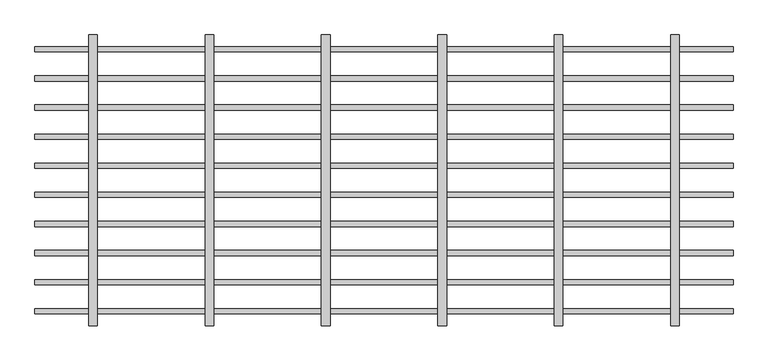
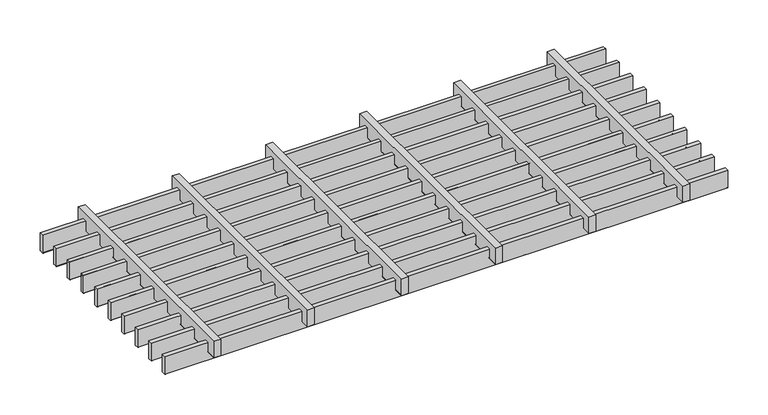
"""IFC4 building model written with IfcOpenShell, lengths in millimetres: proxy geometry, durlum_STARLAM_panel : durlum_STARLAM_9_width_cut."""

from ifc_helpers import new_model, si_unit, point, frame, frame_2d, origin, place, context, project, spatial, polyline, circle_curve, trimmed, segment, composite_curve, outline, extrude, source, transform, mapped, element, save


def generic_models_bbbf1810(model_context):
    return source(origin(), model_context, "Body", "SweptSolid", [
        extrude(outline(composite_curve([segment(polyline([(-179.5, 40.0), (-170.5, 40.0), (-170.5, 0.5)]), True, "CONTINUOUS"), segment(trimmed(circle_curve(frame_2d((-171.0, 0.5)), 0.5), [point((-170.5, 0.5))], [point((-171.0, 0.0))], False, "CARTESIAN"), True, "CONTINUOUS"), segment(polyline([(-171.0, 0.0), (-179.0, 0.0)]), True, "CONTINUOUS"), segment(trimmed(circle_curve(frame_2d((-179.0, 0.5)), 0.5), [point((-179.0, 0.0))], [point((-179.5, 0.5))], False, "CARTESIAN"), True, "CONTINUOUS"), segment(polyline([(-179.5, 0.5), (-179.5, 40.0)]), True, "CONTINUOUS")], self_intersect=False)), frame((-599.75, 0.0, 0.0), z_axis=(1.0, 0.0, 0.0), x_axis=(0.0, 1.0, 0.0)), (0.0, 0.0, 1.0), 1199.5),
        extrude(outline(composite_curve([segment(polyline([(-129.5, 40.0), (-120.5, 40.0), (-120.5, 0.5)]), True, "CONTINUOUS"), segment(trimmed(circle_curve(frame_2d((-121.0, 0.5)), 0.5), [point((-120.5, 0.5))], [point((-121.0, 0.0))], False, "CARTESIAN"), True, "CONTINUOUS"), segment(polyline([(-121.0, 0.0), (-129.0, 0.0)]), True, "CONTINUOUS"), segment(trimmed(circle_curve(frame_2d((-129.0, 0.5)), 0.5), [point((-129.0, 0.0))], [point((-129.5, 0.5))], False, "CARTESIAN"), True, "CONTINUOUS"), segment(polyline([(-129.5, 0.5), (-129.5, 40.0)]), True, "CONTINUOUS")], self_intersect=False)), frame((-599.75, 0.0, 0.0), z_axis=(1.0, 0.0, 0.0), x_axis=(0.0, 1.0, 0.0)), (0.0, 0.0, 1.0), 1199.5),
        extrude(outline(composite_curve([segment(polyline([(54.0, 307.5), (54.0, 292.5), (17.5, 292.5)]), True, "CONTINUOUS"), segment(trimmed(circle_curve(frame_2d((17.5, 293.0)), 0.5), [point((17.5, 292.5))], [point((17.0, 293.0))], False, "CARTESIAN"), True, "CONTINUOUS"), segment(polyline([(17.0, 293.0), (17.0, 307.0)]), True, "CONTINUOUS"), segment(trimmed(circle_curve(frame_2d((17.5, 307.0)), 0.5), [point((17.0, 307.0))], [point((17.5, 307.5))], False, "CARTESIAN"), True, "CONTINUOUS"), segment(polyline([(17.5, 307.5), (54.0, 307.5)]), True, "CONTINUOUS")], self_intersect=False)), frame((0.0, -249.75, 0.0), z_axis=(0.0, 1.0, 0.0), x_axis=(0.0, 0.0, 1.0)), (0.0, 0.0, 1.0), 499.5),
        extrude(outline(composite_curve([segment(polyline([(54.0, 107.5), (54.0, 92.5), (17.5, 92.5)]), True, "CONTINUOUS"), segment(trimmed(circle_curve(frame_2d((17.5, 93.0)), 0.5), [point((17.5, 92.5))], [point((17.0, 93.0))], False, "CARTESIAN"), True, "CONTINUOUS"), segment(polyline([(17.0, 93.0), (17.0, 107.0)]), True, "CONTINUOUS"), segment(trimmed(circle_curve(frame_2d((17.5, 107.0)), 0.5), [point((17.0, 107.0))], [point((17.5, 107.5))], False, "CARTESIAN"), True, "CONTINUOUS"), segment(polyline([(17.5, 107.5), (54.0, 107.5)]), True, "CONTINUOUS")], self_intersect=False)), frame((0.0, -249.75, 0.0), z_axis=(0.0, 1.0, 0.0), x_axis=(0.0, 0.0, 1.0)), (0.0, 0.0, 1.0), 499.5),
        extrude(outline(composite_curve([segment(polyline([(54.0, -92.5), (54.0, -107.5), (17.5, -107.5)]), True, "CONTINUOUS"), segment(trimmed(circle_curve(frame_2d((17.5, -107.0)), 0.5), [point((17.5, -107.5))], [point((17.0, -107.0))], False, "CARTESIAN"), True, "CONTINUOUS"), segment(polyline([(17.0, -107.0), (17.0, -93.0)]), True, "CONTINUOUS"), segment(trimmed(circle_curve(frame_2d((17.5, -93.0)), 0.5), [point((17.0, -93.0))], [point((17.5, -92.5))], False, "CARTESIAN"), True, "CONTINUOUS"), segment(polyline([(17.5, -92.5), (54.0, -92.5)]), True, "CONTINUOUS")], self_intersect=False)), frame((0.0, -249.75, 0.0), z_axis=(0.0, 1.0, 0.0), x_axis=(0.0, 0.0, 1.0)), (0.0, 0.0, 1.0), 499.5),
        extrude(outline(composite_curve([segment(polyline([(54.0, -292.5), (54.0, -307.5), (17.5, -307.5)]), True, "CONTINUOUS"), segment(trimmed(circle_curve(frame_2d((17.5, -307.0)), 0.5), [point((17.5, -307.5))], [point((17.0, -307.0))], False, "CARTESIAN"), True, "CONTINUOUS"), segment(polyline([(17.0, -307.0), (17.0, -293.0)]), True, "CONTINUOUS"), segment(trimmed(circle_curve(frame_2d((17.5, -293.0)), 0.5), [point((17.0, -293.0))], [point((17.5, -292.5))], False, "CARTESIAN"), True, "CONTINUOUS"), segment(polyline([(17.5, -292.5), (54.0, -292.5)]), True, "CONTINUOUS")], self_intersect=False)), frame((0.0, -249.75, 0.0), z_axis=(0.0, 1.0, 0.0), x_axis=(0.0, 0.0, 1.0)), (0.0, 0.0, 1.0), 499.5),
        extrude(outline(composite_curve([segment(polyline([(-79.5, 40.0), (-70.5, 40.0), (-70.5, 0.5)]), True, "CONTINUOUS"), segment(trimmed(circle_curve(frame_2d((-71.0, 0.5)), 0.5), [point((-70.5, 0.5))], [point((-71.0, 0.0))], False, "CARTESIAN"), True, "CONTINUOUS"), segment(polyline([(-71.0, 0.0), (-79.0, 0.0)]), True, "CONTINUOUS"), segment(trimmed(circle_curve(frame_2d((-79.0, 0.5)), 0.5), [point((-79.0, 0.0))], [point((-79.5, 0.5))], False, "CARTESIAN"), True, "CONTINUOUS"), segment(polyline([(-79.5, 0.5), (-79.5, 40.0)]), True, "CONTINUOUS")], self_intersect=False)), frame((-599.75, 0.0, 0.0), z_axis=(1.0, 0.0, 0.0), x_axis=(0.0, 1.0, 0.0)), (0.0, 0.0, 1.0), 1199.5),
        extrude(outline(composite_curve([segment(polyline([(-29.5, 40.0), (-20.5, 40.0), (-20.5, 0.5)]), True, "CONTINUOUS"), segment(trimmed(circle_curve(frame_2d((-21.0, 0.5)), 0.5), [point((-20.5, 0.5))], [point((-21.0, 0.0))], False, "CARTESIAN"), True, "CONTINUOUS"), segment(polyline([(-21.0, 0.0), (-29.0, 0.0)]), True, "CONTINUOUS"), segment(trimmed(circle_curve(frame_2d((-29.0, 0.5)), 0.5), [point((-29.0, 0.0))], [point((-29.5, 0.5))], False, "CARTESIAN"), True, "CONTINUOUS"), segment(polyline([(-29.5, 0.5), (-29.5, 40.0)]), True, "CONTINUOUS")], self_intersect=False)), frame((-599.75, 0.0, 0.0), z_axis=(1.0, 0.0, 0.0), x_axis=(0.0, 1.0, 0.0)), (0.0, 0.0, 1.0), 1199.5),
        extrude(outline(composite_curve([segment(polyline([(20.5, 40.0), (29.5, 40.0), (29.5, 0.5)]), True, "CONTINUOUS"), segment(trimmed(circle_curve(frame_2d((29.0, 0.5)), 0.5), [point((29.5, 0.5))], [point((29.0, 0.0))], False, "CARTESIAN"), True, "CONTINUOUS"), segment(polyline([(29.0, 0.0), (21.0, 0.0)]), True, "CONTINUOUS"), segment(trimmed(circle_curve(frame_2d((21.0, 0.5)), 0.5), [point((21.0, 0.0))], [point((20.5, 0.5))], False, "CARTESIAN"), True, "CONTINUOUS"), segment(polyline([(20.5, 0.5), (20.5, 40.0)]), True, "CONTINUOUS")], self_intersect=False)), frame((-599.75, 0.0, 0.0), z_axis=(1.0, 0.0, 0.0), x_axis=(0.0, 1.0, 0.0)), (0.0, 0.0, 1.0), 1199.5),
        extrude(outline(composite_curve([segment(polyline([(70.5, 40.0), (79.5, 40.0), (79.5, 0.5)]), True, "CONTINUOUS"), segment(trimmed(circle_curve(frame_2d((79.0, 0.5)), 0.5), [point((79.5, 0.5))], [point((79.0, 0.0))], False, "CARTESIAN"), True, "CONTINUOUS"), segment(polyline([(79.0, 0.0), (71.0, 0.0)]), True, "CONTINUOUS"), segment(trimmed(circle_curve(frame_2d((71.0, 0.5)), 0.5), [point((71.0, 0.0))], [point((70.5, 0.5))], False, "CARTESIAN"), True, "CONTINUOUS"), segment(polyline([(70.5, 0.5), (70.5, 40.0)]), True, "CONTINUOUS")], self_intersect=False)), frame((-599.75, 0.0, 0.0), z_axis=(1.0, 0.0, 0.0), x_axis=(0.0, 1.0, 0.0)), (0.0, 0.0, 1.0), 1199.5),
        extrude(outline(composite_curve([segment(polyline([(120.5, 40.0), (129.5, 40.0), (129.5, 0.5)]), True, "CONTINUOUS"), segment(trimmed(circle_curve(frame_2d((129.0, 0.5)), 0.5), [point((129.5, 0.5))], [point((129.0, 0.0))], False, "CARTESIAN"), True, "CONTINUOUS"), segment(polyline([(129.0, 0.0), (121.0, 0.0)]), True, "CONTINUOUS"), segment(trimmed(circle_curve(frame_2d((121.0, 0.5)), 0.5), [point((121.0, 0.0))], [point((120.5, 0.5))], False, "CARTESIAN"), True, "CONTINUOUS"), segment(polyline([(120.5, 0.5), (120.5, 40.0)]), True, "CONTINUOUS")], self_intersect=False)), frame((-599.75, 0.0, 0.0), z_axis=(1.0, 0.0, 0.0), x_axis=(0.0, 1.0, 0.0)), (0.0, 0.0, 1.0), 1199.5),
        extrude(outline(composite_curve([segment(polyline([(170.5, 40.0), (179.5, 40.0), (179.5, 0.5)]), True, "CONTINUOUS"), segment(trimmed(circle_curve(frame_2d((179.0, 0.5)), 0.5), [point((179.5, 0.5))], [point((179.0, 0.0))], False, "CARTESIAN"), True, "CONTINUOUS"), segment(polyline([(179.0, 0.0), (171.0, 0.0)]), True, "CONTINUOUS"), segment(trimmed(circle_curve(frame_2d((171.0, 0.5)), 0.5), [point((171.0, 0.0))], [point((170.5, 0.5))], False, "CARTESIAN"), True, "CONTINUOUS"), segment(polyline([(170.5, 0.5), (170.5, 40.0)]), True, "CONTINUOUS")], self_intersect=False)), frame((-599.75, 0.0, 0.0), z_axis=(1.0, 0.0, 0.0), x_axis=(0.0, 1.0, 0.0)), (0.0, 0.0, 1.0), 1199.5),
        extrude(outline(composite_curve([segment(polyline([(54.0, 507.5), (54.0, 492.5), (17.5, 492.5)]), True, "CONTINUOUS"), segment(trimmed(circle_curve(frame_2d((17.5, 493.0)), 0.5), [point((17.5, 492.5))], [point((17.0, 493.0))], False, "CARTESIAN"), True, "CONTINUOUS"), segment(polyline([(17.0, 493.0), (17.0, 507.0)]), True, "CONTINUOUS"), segment(trimmed(circle_curve(frame_2d((17.5, 507.0)), 0.5), [point((17.0, 507.0))], [point((17.5, 507.5))], False, "CARTESIAN"), True, "CONTINUOUS"), segment(polyline([(17.5, 507.5), (54.0, 507.5)]), True, "CONTINUOUS")], self_intersect=False)), frame((0.0, -249.75, 0.0), z_axis=(0.0, 1.0, 0.0), x_axis=(0.0, 0.0, 1.0)), (0.0, 0.0, 1.0), 499.5),
        extrude(outline(composite_curve([segment(polyline([(54.0, -492.5), (54.0, -507.5), (17.5, -507.5)]), True, "CONTINUOUS"), segment(trimmed(circle_curve(frame_2d((17.5, -507.0)), 0.5), [point((17.5, -507.5))], [point((17.0, -507.0))], False, "CARTESIAN"), True, "CONTINUOUS"), segment(polyline([(17.0, -507.0), (17.0, -493.0)]), True, "CONTINUOUS"), segment(trimmed(circle_curve(frame_2d((17.5, -493.0)), 0.5), [point((17.0, -493.0))], [point((17.5, -492.5))], False, "CARTESIAN"), True, "CONTINUOUS"), segment(polyline([(17.5, -492.5), (54.0, -492.5)]), True, "CONTINUOUS")], self_intersect=False)), frame((0.0, -249.75, 0.0), z_axis=(0.0, 1.0, 0.0), x_axis=(0.0, 0.0, 1.0)), (0.0, 0.0, 1.0), 499.5),
        extrude(outline(composite_curve([segment(polyline([(-229.5, 40.0), (-220.5, 40.0), (-220.5, 0.5)]), True, "CONTINUOUS"), segment(trimmed(circle_curve(frame_2d((-221.0, 0.5)), 0.5), [point((-220.5, 0.5))], [point((-221.0, 0.0))], False, "CARTESIAN"), True, "CONTINUOUS"), segment(polyline([(-221.0, 0.0), (-229.0, 0.0)]), True, "CONTINUOUS"), segment(trimmed(circle_curve(frame_2d((-229.0, 0.5)), 0.5), [point((-229.0, 0.0))], [point((-229.5, 0.5))], False, "CARTESIAN"), True, "CONTINUOUS"), segment(polyline([(-229.5, 0.5), (-229.5, 40.0)]), True, "CONTINUOUS")], self_intersect=False)), frame((-599.75, 0.0, 0.0), z_axis=(1.0, 0.0, 0.0), x_axis=(0.0, 1.0, 0.0)), (0.0, 0.0, 1.0), 1199.5),
        extrude(outline(composite_curve([segment(polyline([(220.5, 40.0), (229.5, 40.0), (229.5, 0.5)]), True, "CONTINUOUS"), segment(trimmed(circle_curve(frame_2d((229.0, 0.5)), 0.5), [point((229.5, 0.5))], [point((229.0, 0.0))], False, "CARTESIAN"), True, "CONTINUOUS"), segment(polyline([(229.0, 0.0), (221.0, 0.0)]), True, "CONTINUOUS"), segment(trimmed(circle_curve(frame_2d((221.0, 0.5)), 0.5), [point((221.0, 0.0))], [point((220.5, 0.5))], False, "CARTESIAN"), True, "CONTINUOUS"), segment(polyline([(220.5, 0.5), (220.5, 40.0)]), True, "CONTINUOUS")], self_intersect=False)), frame((-599.75, 0.0, 0.0), z_axis=(1.0, 0.0, 0.0), x_axis=(0.0, 1.0, 0.0)), (0.0, 0.0, 1.0), 1199.5),
    ])


if __name__ == "__main__":
    model = new_model("IFC4")
    model_context = context("Model", 3, world=origin())
    ifc_project = project(units=[si_unit("LENGTHUNIT", "METRE", prefix="MILLI")], contexts=[model_context])
    site = spatial("IfcSite", under=ifc_project)
    building = spatial("IfcBuilding", under=site)
    placement = place(None, origin())
    generic_models_shape = generic_models_bbbf1810(model_context)
    element("IfcBuildingElementProxy", 1, Name="durlum_STARLAM_panel : durlum_STARLAM_9_width_cut", ObjectType="durlum_STARLAM_panel : durlum_STARLAM_9_width_cut", at=placement, inside=building, context=model_context, shape_type="MappedRepresentation", body=[
        mapped(generic_models_shape, transform((0.0, 0.0, 0.0), x_axis=(1.0, 0.0, 0.0), y_axis=(0.0, 1.0, 0.0), z_axis=(0.0, 0.0, 1.0))),
    ])
    save(model, "model.ifc")
